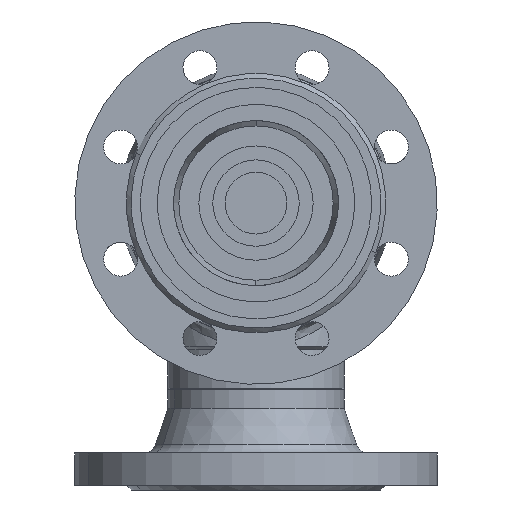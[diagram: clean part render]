
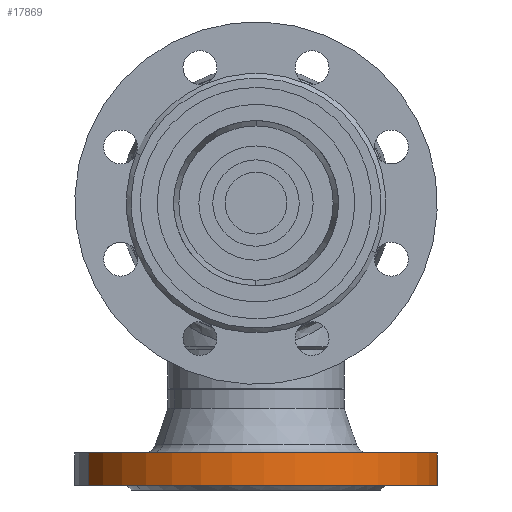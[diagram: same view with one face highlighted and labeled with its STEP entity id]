
A CAD part, front view. The second image highlights one B-rep face of the part: STEP entity #17869.
In plain terms, the highlighted cylindrical face has radius 117.5 mm (diameter 235 mm), a partial arc.
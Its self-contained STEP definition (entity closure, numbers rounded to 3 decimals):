
#16689 = ORIENTED_EDGE ( 'NONE', *, *, #16325, .T. ) ;
#332 = VERTEX_POINT ( 'NONE', #13221 ) ;
#562 = VERTEX_POINT ( 'NONE', #13660 ) ;
#17192 = ORIENTED_EDGE ( 'NONE', *, *, #19683, .F. ) ;
#17699 = EDGE_LOOP ( 'NONE', ( #17192, #16689, #15798, #14885 ) ) ;
#17869 = ADVANCED_FACE ( 'NONE', ( #9712 ), #9713, .T. ) ;
#1961 = EDGE_CURVE ( 'NONE', #562, #18365, #19198, .T. ) ;
#18365 = VERTEX_POINT ( 'NONE', #12623 ) ;
#19198 = LINE ( 'NONE', #19199, #19200 ) ;
#19199 = CARTESIAN_POINT ( 'NONE',  ( -117.5, 75., 0. ) ) ;
#19200 = VECTOR ( 'NONE', #19201, 1000. ) ;
#19201 = DIRECTION ( 'NONE',  ( 0., 1., 0. ) ) ;
#19461 = VERTEX_POINT ( 'NONE', #14098 ) ;
#19683 = EDGE_CURVE ( 'NONE', #332, #19461, #14304, .T. ) ;
#3891 = CIRCLE ( 'NONE', #3892, 117.5 ) ;
#3892 = AXIS2_PLACEMENT_3D ( 'NONE', #3893, #3894, #3895 ) ;
#3893 = CARTESIAN_POINT ( 'NONE',  ( 0., 24., 0. ) ) ;
#3894 = DIRECTION ( 'NONE',  ( 0., 1., 0. ) ) ;
#3895 = DIRECTION ( 'NONE',  ( -1., 0., 0. ) ) ;
#4174 = EDGE_CURVE ( 'NONE', #19461, #18365, #3891, .T. ) ;
#7231 = CIRCLE ( 'NONE', #7232, 117.5 ) ;
#7232 = AXIS2_PLACEMENT_3D ( 'NONE', #7233, #7234, #7235 ) ;
#7233 = CARTESIAN_POINT ( 'NONE',  ( 0., 3., 0. ) ) ;
#7234 = DIRECTION ( 'NONE',  ( 0., 1., 0. ) ) ;
#7235 = DIRECTION ( 'NONE',  ( -1., 0., 0. ) ) ;
#9712 = FACE_OUTER_BOUND ( 'NONE', #17699, .T. ) ;
#9713 = CYLINDRICAL_SURFACE ( 'NONE', #9714, 117.5 ) ;
#9714 = AXIS2_PLACEMENT_3D ( 'NONE', #9715, #9716, #9717 ) ;
#9715 = CARTESIAN_POINT ( 'NONE',  ( 0., 75., 0. ) ) ;
#9716 = DIRECTION ( 'NONE',  ( 0., 1., 0. ) ) ;
#9717 = DIRECTION ( 'NONE',  ( -1., 0., 0. ) ) ;
#12623 = CARTESIAN_POINT ( 'NONE',  ( -117.5, 24., 0. ) ) ;
#13221 = CARTESIAN_POINT ( 'NONE',  ( 117.5, 3., 0. ) ) ;
#13660 = CARTESIAN_POINT ( 'NONE',  ( -117.5, 3., 0. ) ) ;
#14098 = CARTESIAN_POINT ( 'NONE',  ( 117.5, 24., 0. ) ) ;
#14304 = LINE ( 'NONE', #14305, #14306 ) ;
#14305 = CARTESIAN_POINT ( 'NONE',  ( 117.5, 75., 0. ) ) ;
#14306 = VECTOR ( 'NONE', #14307, 1000. ) ;
#14307 = DIRECTION ( 'NONE',  ( 0., 1., 0. ) ) ;
#14885 = ORIENTED_EDGE ( 'NONE', *, *, #4174, .F. ) ;
#15798 = ORIENTED_EDGE ( 'NONE', *, *, #1961, .T. ) ;
#16325 = EDGE_CURVE ( 'NONE', #332, #562, #7231, .T. ) ;
